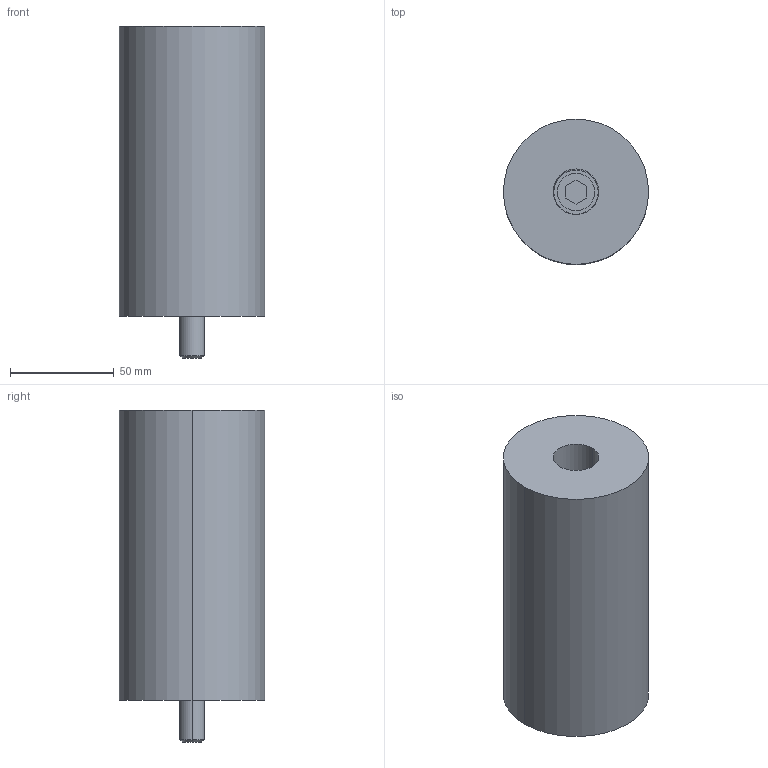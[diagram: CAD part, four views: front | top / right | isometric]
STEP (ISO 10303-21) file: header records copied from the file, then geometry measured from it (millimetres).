
FILE_DESCRIPTION(/* description */ (''),/* implementation_level */ '2;1');
FILE_NAME(/* name */ '3d_esbt7022140_07004_r00.stp',/* time_stamp */ '2011-01-10T14:15:39+09:00',/* author */ ('MISUMI'),/* organization */ (''),/* preprocessor_version */ 'ST-DEVELOPER v11',/* originating_system */ 'UGS - NX 5.0',/* authorisation */ '');
FILE_SCHEMA (('CONFIG_CONTROL_DESIGN'));
Length unit declared in the file: millimetre
Products named in the file (1): 3d_esbt7022140_07004_r00
Bounding box: 70 x 70 x 160 mm (x, y, z)
Volume: 505201.8 mm3; surface area: 55543.7 mm2
Topology: 3 solids, 3 shells, 35 faces, 72 edges, 46 vertices
Faces by surface type: plane 15, cylinder 14, cone 6
Entity records: 1022 total; most frequent: DIRECTION 178, CARTESIAN_POINT 154, ORIENTED_EDGE 144, EDGE_CURVE 72, AXIS2_PLACEMENT_3D 70, VERTEX_POINT 46, EDGE_LOOP 42, LINE 38
